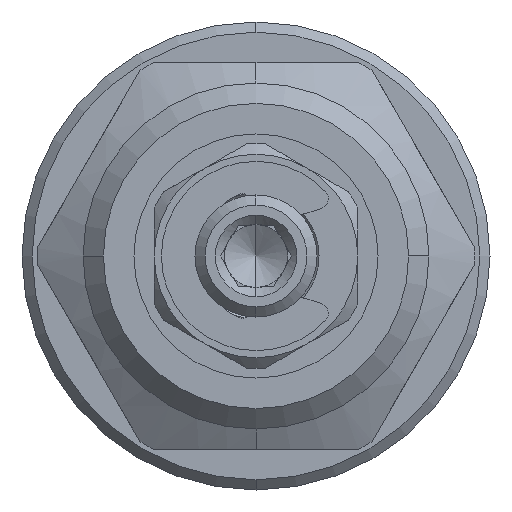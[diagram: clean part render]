
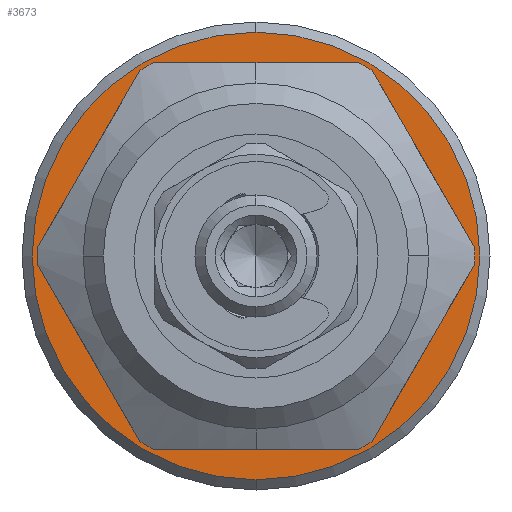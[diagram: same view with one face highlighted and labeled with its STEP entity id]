
A CAD part, left-side view. The second image highlights one B-rep face of the part: STEP entity #3673.
In plain terms, the highlighted planar face has unit normal (-1, 0, 0).
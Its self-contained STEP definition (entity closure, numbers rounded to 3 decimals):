
#68 = VERTEX_POINT ( 'NONE', #6296 ) ;
#116 = CARTESIAN_POINT ( 'NONE',  ( -4.5, 0., 0. ) ) ;
#139 = DIRECTION ( 'NONE',  ( 0., 0., -1. ) ) ;
#240 = CARTESIAN_POINT ( 'NONE',  ( -4.5, 0., 0. ) ) ;
#243 = CIRCLE ( 'NONE', #568, 10.75 ) ;
#268 = DIRECTION ( 'NONE',  ( 1., 0., 0. ) ) ;
#291 = DIRECTION ( 'NONE',  ( 0., -1., 0. ) ) ;
#412 = CIRCLE ( 'NONE', #12153, 10.75 ) ;
#511 = LINE ( 'NONE', #3519, #11598 ) ;
#568 = AXIS2_PLACEMENT_3D ( 'NONE', #4306, #4270, #4248 ) ;
#685 = EDGE_CURVE ( 'NONE', #5553, #3450, #6679, .T. ) ;
#712 = EDGE_CURVE ( 'NONE', #9061, #4350, #6668, .T. ) ;
#730 = EDGE_CURVE ( 'NONE', #4917, #10638, #6374, .T. ) ;
#763 = EDGE_CURVE ( 'NONE', #6729, #5096, #412, .T. ) ;
#784 = EDGE_CURVE ( 'NONE', #68, #2964, #243, .T. ) ;
#821 = EDGE_CURVE ( 'NONE', #4917, #5096, #1728, .T. ) ;
#823 = EDGE_CURVE ( 'NONE', #9061, #10638, #11823, .T. ) ;
#844 = EDGE_CURVE ( 'NONE', #7129, #4350, #6871, .T. ) ;
#847 = EDGE_CURVE ( 'NONE', #6698, #7129, #4504, .T. ) ;
#857 = EDGE_CURVE ( 'NONE', #8990, #6698, #511, .T. ) ;
#868 = EDGE_CURVE ( 'NONE', #11023, #8990, #11572, .T. ) ;
#870 = EDGE_CURVE ( 'NONE', #68, #11023, #8595, .T. ) ;
#882 = EDGE_CURVE ( 'NONE', #6729, #2411, #11978, .T. ) ;
#1576 = VECTOR ( 'NONE', #9317, 1000. ) ;
#1679 = DIRECTION ( 'NONE',  ( 0., -1., 0. ) ) ;
#1696 = DIRECTION ( 'NONE',  ( 1., 0., 0. ) ) ;
#1728 = LINE ( 'NONE', #3221, #10897 ) ;
#1737 = CARTESIAN_POINT ( 'NONE',  ( -4.5, 0., 0. ) ) ;
#1861 = AXIS2_PLACEMENT_3D ( 'NONE', #3695, #3681, #3644 ) ;
#2411 = VERTEX_POINT ( 'NONE', #8275 ) ;
#2430 = DIRECTION ( 'NONE',  ( 0., 0., -1. ) ) ;
#2478 = DIRECTION ( 'NONE',  ( -1., 0., 0. ) ) ;
#2496 = CARTESIAN_POINT ( 'NONE',  ( -4.5, 0., 0. ) ) ;
#2553 = CARTESIAN_POINT ( 'NONE',  ( -4.5, 5.031, 9.5 ) ) ;
#2668 = ORIENTED_EDGE ( 'NONE', *, *, #8053, .T. ) ;
#2692 = ORIENTED_EDGE ( 'NONE', *, *, #763, .T. ) ;
#2702 = ORIENTED_EDGE ( 'NONE', *, *, #882, .F. ) ;
#2771 = ORIENTED_EDGE ( 'NONE', *, *, #8230, .T. ) ;
#2814 = ORIENTED_EDGE ( 'NONE', *, *, #784, .T. ) ;
#2827 = ORIENTED_EDGE ( 'NONE', *, *, #870, .F. ) ;
#2838 = ORIENTED_EDGE ( 'NONE', *, *, #868, .F. ) ;
#2964 = VERTEX_POINT ( 'NONE', #11929 ) ;
#3016 = ORIENTED_EDGE ( 'NONE', *, *, #857, .F. ) ;
#3078 = DIRECTION ( 'NONE',  ( -1., 0., 0. ) ) ;
#3082 = CARTESIAN_POINT ( 'NONE',  ( -4.5, 0., 11. ) ) ;
#3101 = ORIENTED_EDGE ( 'NONE', *, *, #847, .F. ) ;
#3113 = ORIENTED_EDGE ( 'NONE', *, *, #844, .F. ) ;
#3130 = ORIENTED_EDGE ( 'NONE', *, *, #712, .T. ) ;
#3160 = ORIENTED_EDGE ( 'NONE', *, *, #823, .F. ) ;
#3221 = CARTESIAN_POINT ( 'NONE',  ( -4.5, 5.485, -9.5 ) ) ;
#3236 = ORIENTED_EDGE ( 'NONE', *, *, #821, .F. ) ;
#3277 = DIRECTION ( 'NONE',  ( 0., 0.5, -0.866 ) ) ;
#3291 = EDGE_LOOP ( 'NONE', ( #5875, #2668 ) ) ;
#3359 = CARTESIAN_POINT ( 'NONE',  ( -4.5, -5.485, -9.5 ) ) ;
#3398 = DIRECTION ( 'NONE',  ( 0., 0.5, 0.866 ) ) ;
#3450 = VERTEX_POINT ( 'NONE', #3082 ) ;
#3488 = CARTESIAN_POINT ( 'NONE',  ( -4.5, 0., 0. ) ) ;
#3519 = CARTESIAN_POINT ( 'NONE',  ( -4.5, -5.485, 9.5 ) ) ;
#3644 = DIRECTION ( 'NONE',  ( 0., -1., 0. ) ) ;
#3673 = ADVANCED_FACE ( 'NONE', ( #7666, #7657 ), #10661, .T. ) ;
#3681 = DIRECTION ( 'NONE',  ( -1., 0., 0. ) ) ;
#3690 = AXIS2_PLACEMENT_3D ( 'NONE', #8588, #8709, #8640 ) ;
#3695 = CARTESIAN_POINT ( 'NONE',  ( -4.5, 0., 0. ) ) ;
#4015 = DIRECTION ( 'NONE',  ( 0., -0.5, -0.866 ) ) ;
#4029 = CARTESIAN_POINT ( 'NONE',  ( -4.5, 10.97, 0. ) ) ;
#4114 = DIRECTION ( 'NONE',  ( 0., -1., 0. ) ) ;
#4121 = CARTESIAN_POINT ( 'NONE',  ( -4.5, 10.743, -0.393 ) ) ;
#4248 = DIRECTION ( 'NONE',  ( 0., -1., 0. ) ) ;
#4270 = DIRECTION ( 'NONE',  ( 1., 0., 0. ) ) ;
#4306 = CARTESIAN_POINT ( 'NONE',  ( -4.5, 0., 0. ) ) ;
#4350 = VERTEX_POINT ( 'NONE', #9053 ) ;
#4504 = CIRCLE ( 'NONE', #1861, 10.75 ) ;
#4527 = DIRECTION ( 'NONE',  ( 0., -1., 0. ) ) ;
#4652 = DIRECTION ( 'NONE',  ( 1., 0., 0. ) ) ;
#4694 = CARTESIAN_POINT ( 'NONE',  ( -4.5, 0., 0. ) ) ;
#4917 = VERTEX_POINT ( 'NONE', #11664 ) ;
#5005 = CARTESIAN_POINT ( 'NONE',  ( -4.5, 5.712, 9.107 ) ) ;
#5096 = VERTEX_POINT ( 'NONE', #6007 ) ;
#5210 = DIRECTION ( 'NONE',  ( 0., -1., 0. ) ) ;
#5270 = DIRECTION ( 'NONE',  ( 1., 0., 0. ) ) ;
#5358 = CARTESIAN_POINT ( 'NONE',  ( -4.5, -10.97, 0. ) ) ;
#5542 = CARTESIAN_POINT ( 'NONE',  ( -4.5, -5.712, -9.107 ) ) ;
#5553 = VERTEX_POINT ( 'NONE', #8125 ) ;
#5875 = ORIENTED_EDGE ( 'NONE', *, *, #685, .T. ) ;
#6007 = CARTESIAN_POINT ( 'NONE',  ( -4.5, -5.031, -9.5 ) ) ;
#6296 = CARTESIAN_POINT ( 'NONE',  ( -4.5, -10.743, 0.393 ) ) ;
#6374 = CIRCLE ( 'NONE', #9652, 10.75 ) ;
#6588 = AXIS2_PLACEMENT_3D ( 'NONE', #1737, #1696, #1679 ) ;
#6668 = CIRCLE ( 'NONE', #9742, 10.75 ) ;
#6679 = CIRCLE ( 'NONE', #9145, 11. ) ;
#6682 = AXIS2_PLACEMENT_3D ( 'NONE', #2496, #2478, #2430 ) ;
#6698 = VERTEX_POINT ( 'NONE', #2553 ) ;
#6712 = ORIENTED_EDGE ( 'NONE', *, *, #730, .T. ) ;
#6729 = VERTEX_POINT ( 'NONE', #5542 ) ;
#6871 = LINE ( 'NONE', #8206, #11711 ) ;
#6977 = CIRCLE ( 'NONE', #6588, 10.75 ) ;
#7061 = CARTESIAN_POINT ( 'NONE',  ( -4.5, -5.031, 9.5 ) ) ;
#7129 = VERTEX_POINT ( 'NONE', #5005 ) ;
#7657 = FACE_OUTER_BOUND ( 'NONE', #3291, .T. ) ;
#7666 = FACE_BOUND ( 'NONE', #10184, .T. ) ;
#8013 = DIRECTION ( 'NONE',  ( 0., 1., 0. ) ) ;
#8053 = EDGE_CURVE ( 'NONE', #3450, #5553, #8895, .T. ) ;
#8125 = CARTESIAN_POINT ( 'NONE',  ( -4.5, 0., -11. ) ) ;
#8206 = CARTESIAN_POINT ( 'NONE',  ( -4.5, 5.485, 9.5 ) ) ;
#8230 = EDGE_CURVE ( 'NONE', #2964, #2411, #6977, .T. ) ;
#8275 = CARTESIAN_POINT ( 'NONE',  ( -4.5, -10.743, -0.393 ) ) ;
#8588 = CARTESIAN_POINT ( 'NONE',  ( -4.5, 0., 0. ) ) ;
#8595 = LINE ( 'NONE', #5358, #11149 ) ;
#8640 = DIRECTION ( 'NONE',  ( 0., -1., 0. ) ) ;
#8709 = DIRECTION ( 'NONE',  ( -1., 0., 0. ) ) ;
#8849 = CARTESIAN_POINT ( 'NONE',  ( -4.5, 5.712, -9.107 ) ) ;
#8895 = CIRCLE ( 'NONE', #6682, 11. ) ;
#8990 = VERTEX_POINT ( 'NONE', #7061 ) ;
#9053 = CARTESIAN_POINT ( 'NONE',  ( -4.5, 10.743, 0.393 ) ) ;
#9061 = VERTEX_POINT ( 'NONE', #4121 ) ;
#9105 = DIRECTION ( 'NONE',  ( 0., -1., 0. ) ) ;
#9145 = AXIS2_PLACEMENT_3D ( 'NONE', #116, #3078, #139 ) ;
#9256 = DIRECTION ( 'NONE',  ( -1., 0., 0. ) ) ;
#9317 = DIRECTION ( 'NONE',  ( 0., -0.5, 0.866 ) ) ;
#9324 = CARTESIAN_POINT ( 'NONE',  ( -4.5, 5.485, 9.5 ) ) ;
#9652 = AXIS2_PLACEMENT_3D ( 'NONE', #3488, #5270, #5210 ) ;
#9742 = AXIS2_PLACEMENT_3D ( 'NONE', #240, #268, #291 ) ;
#10184 = EDGE_LOOP ( 'NONE', ( #3236, #6712, #3160, #3130, #3113, #3101, #3016, #2838, #2827, #2814, #2771, #2702, #2692 ) ) ;
#10638 = VERTEX_POINT ( 'NONE', #8849 ) ;
#10661 = PLANE ( 'NONE',  #11879 ) ;
#10897 = VECTOR ( 'NONE', #4114, 1000. ) ;
#11023 = VERTEX_POINT ( 'NONE', #11201 ) ;
#11149 = VECTOR ( 'NONE', #3398, 1000. ) ;
#11201 = CARTESIAN_POINT ( 'NONE',  ( -4.5, -5.712, 9.107 ) ) ;
#11572 = CIRCLE ( 'NONE', #3690, 10.75 ) ;
#11598 = VECTOR ( 'NONE', #8013, 1000. ) ;
#11664 = CARTESIAN_POINT ( 'NONE',  ( -4.5, 5.031, -9.5 ) ) ;
#11690 = VECTOR ( 'NONE', #4015, 1000. ) ;
#11711 = VECTOR ( 'NONE', #3277, 1000. ) ;
#11823 = LINE ( 'NONE', #4029, #11690 ) ;
#11879 = AXIS2_PLACEMENT_3D ( 'NONE', #9324, #9256, #9105 ) ;
#11929 = CARTESIAN_POINT ( 'NONE',  ( -4.5, -10.75, 0. ) ) ;
#11978 = LINE ( 'NONE', #3359, #1576 ) ;
#12153 = AXIS2_PLACEMENT_3D ( 'NONE', #4694, #4652, #4527 ) ;
